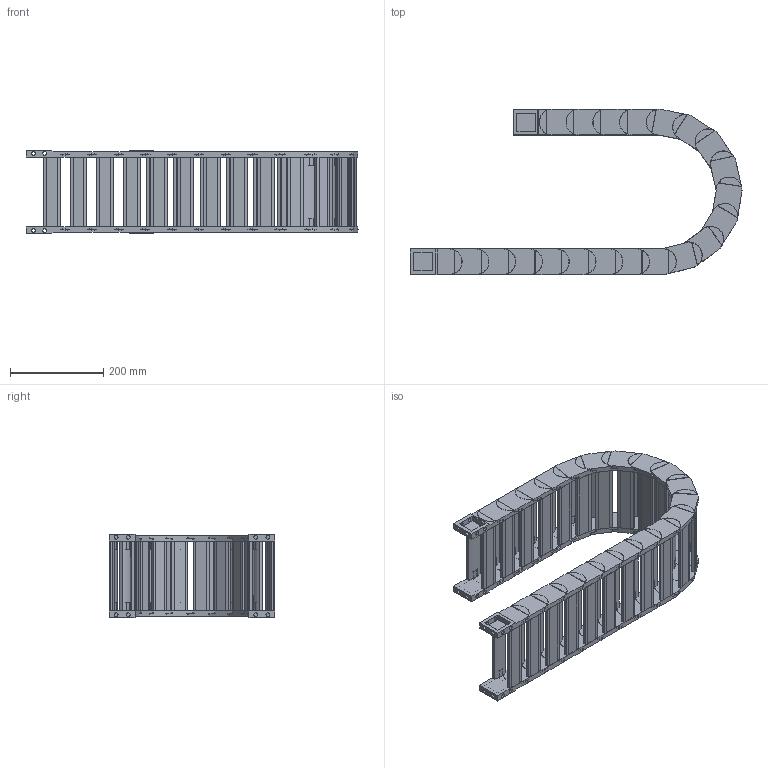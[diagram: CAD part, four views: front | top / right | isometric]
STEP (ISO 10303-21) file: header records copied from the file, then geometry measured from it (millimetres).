
FILE_DESCRIPTION((''),'2;1');
FILE_NAME('HD35-R150-ZPT_ASM','2022-06-17T14:08:30',('admin'),(''),'CREO PARAMETRIC BY PTC INC, 2021164','CREO PARAMETRIC BY PTC INC, 2021164','');
FILE_SCHEMA(('CONFIG_CONTROL_DESIGN','GEOMETRIC_VALIDATION_PROPERTIES_MIM'));
Length unit declared in the file: millimetre
Products named in the file (6): HD35; 35-600001; HD35_ASM; 35-TL_11; 35-WL; HD35-R150-ZPT_ASM
Assembly tree (26 placements, depth 3):
  HD35-R150-ZPT_ASM
    HD35_ASM  x20
      HD35
      35-600001
    35-TL_11
    35-WL
    35-600001  x2
Bounding box: 713.07 x 354.77 x 178.3 mm (x, y, z)
Volume: 3710579.7 mm3; surface area: 1279108.7 mm2
Topology: 88 solids, 88 shells, 1642 faces, 4370 edges, 2996 vertices
Faces by surface type: plane 1118, cylinder 524
Entity records: 9431 total; most frequent: DIRECTION 1426, CARTESIAN_POINT 1416, ORIENTED_EDGE 1300, EDGE_CURVE 650, AXIS2_PLACEMENT_3D 508, VERTEX_POINT 440, VECTOR 410, LINE 410
